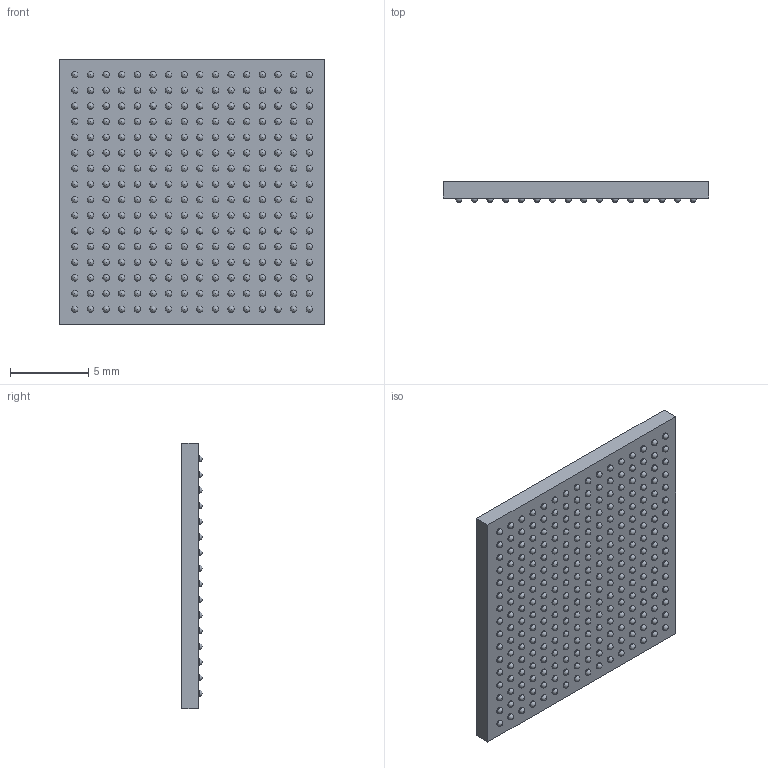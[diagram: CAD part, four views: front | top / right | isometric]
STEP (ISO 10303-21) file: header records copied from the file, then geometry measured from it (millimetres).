
FILE_DESCRIPTION((''),'2;1');
FILE_NAME('C:\library\Step_Files\BGA256.STEP','2013-03-11T16:53:02',('steve'),(''),'Autodesk Inventor 2012','Autodesk Inventor 2012','');
FILE_SCHEMA(('AUTOMOTIVE_DESIGN { 1 0 10303 214 1 1 1 1 }'));
Length unit declared in the file: millimetre
Products named in the file (1): BGA256
Bounding box: 17 x 1.3 x 17 mm (x, y, z)
Volume: 309.2 mm3; surface area: 701.3 mm2
Topology: 1 solids, 1 shells, 621 faces, 1821 edges, 1214 vertices
Faces by surface type: cylinder 257, sphere 256, plane 67, bspline 41
Full cylindrical faces by diameter (mm): 0.4 x256, 0.6 x1
Entity records: 16626 total; most frequent: CARTESIAN_POINT 4849, DIRECTION 2390, ORIENTED_EDGE 1592, EDGE_LOOP 1146, AXIS2_PLACEMENT_3D 1095, EDGE_CURVE 796, VERTEX_POINT 702, STYLED_ITEM 622
